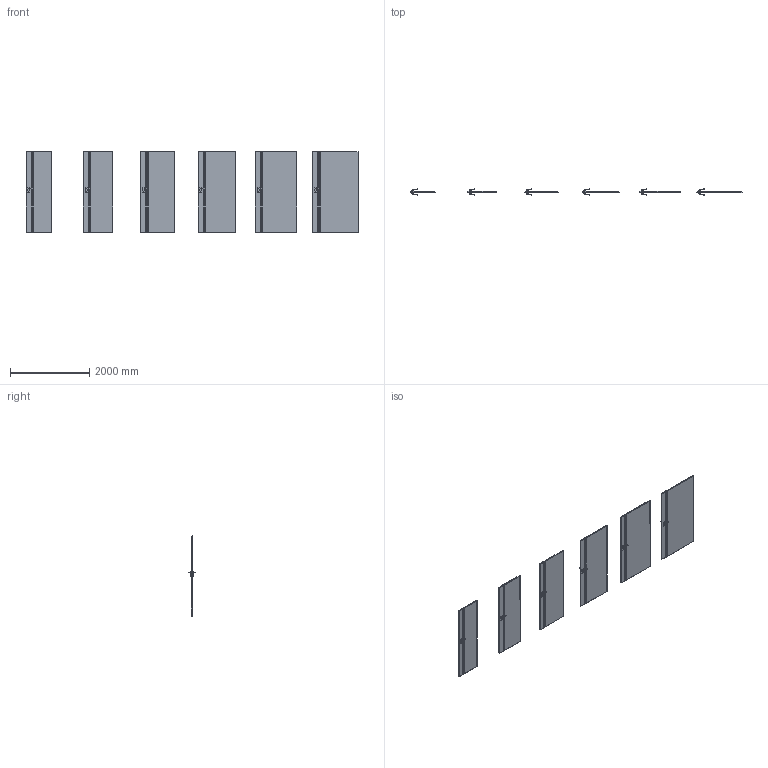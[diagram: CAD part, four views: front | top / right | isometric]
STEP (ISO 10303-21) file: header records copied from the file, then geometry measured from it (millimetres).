
FILE_DESCRIPTION(/* description */ (''),/* implementation_level */ '2;1');
FILE_NAME(/* name */ '049600_A_2-Skrzydło LINE model B.1_ polska norma _PN__ przylgowe..stp',/* time_stamp */ '2024-01-24T12:43:14+01:00',/* author */ (''),/* organization */ (''),/* preprocessor_version */ 'ST-DEVELOPER v16',/* originating_system */ 'SIEMENS PLM Software NX 11.0',/* authorisation */ '');
FILE_SCHEMA (('AUTOMOTIVE_DESIGN { 1 0 10303 214 3 1 1 1 }'));
Length unit declared in the file: millimetre
Products named in the file (1): bkni96CCB443rk9h
Bounding box: 8394 x 153.27 x 2030 mm (x, y, z)
Volume: 418559110.9 mm3; surface area: 24613821.1 mm2
Topology: 66 solids, 66 shells, 1440 faces, 3396 edges, 1968 vertices
Faces by surface type: plane 816, cylinder 264, bspline 192, sphere 168
Entity records: 46505 total; most frequent: CARTESIAN_POINT 15061, ORIENTED_EDGE 6456, DIRECTION 6086, EDGE_CURVE 3228, LINE 2148, VECTOR 2148, AXIS2_PLACEMENT_3D 1969, VERTEX_POINT 1968
